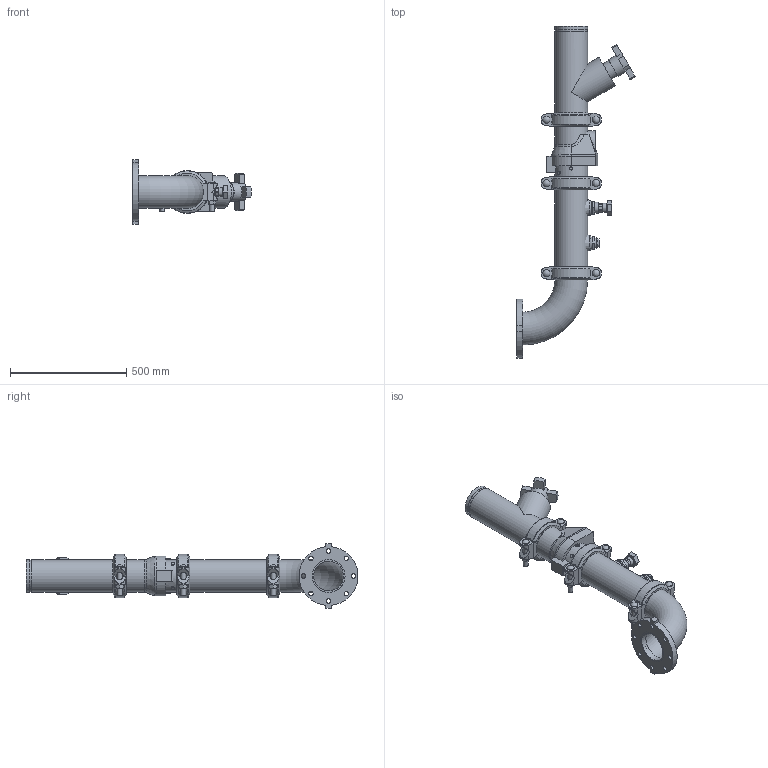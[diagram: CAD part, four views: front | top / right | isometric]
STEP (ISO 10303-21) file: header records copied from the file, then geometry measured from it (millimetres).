
FILE_DESCRIPTION(/* description */ ('VIC DVI PUMP DROP HORZ S/383 (OGSxFLG) (S/924-1.25)','CAx-IF Rec.Pracs.---Representation and Presentation of Product Manufacturing Information (PMI)---4.0---2014-10-13'),/* implementation_level */ '2;1');
FILE_NAME(/* name */ 'C:\Users\Vjadhav\AppData\Roaming\Autodesk\ApplicationPlugins\Victaulic.Temp\A892\Victaulic_IPS_Horizontal DVI_CL 150_Series 383 (OGSxFLG)_924 (1.25)_05.0x05.0 (125x125).stp',/* time_stamp */ '2022-02-28T15:43:49+05:00',/* author */ ('kkamble'),/* organization */ ('Victaulic'),/* preprocessor_version */ 'ST-DEVELOPER v17.2',/* originating_system */ 'Autodesk Inventor 2019',/* authorisation */ '');
FILE_SCHEMA (('AP242_MANAGED_MODEL_BASED_3D_ENGINEERING_MIM_LF { 1 0 10303 442 1 1 4 }'));
Length unit declared in the file: inch
Products named in the file (9): 383-924 (1.25)-05.0x05.0; 741-05.0; Pipe-05.0x05.0; 789-05.0; 177N-05.0; 779-05.0; 924-04.0x01.25; 923-04.0x0.75; 100-05.0
Assembly tree (10 placements, depth 2):
  383-924 (1.25)-05.0x05.0
    177N-05.0  x3
    741-05.0
    Pipe-05.0x05.0
    789-05.0
    779-05.0
    924-04.0x01.25
    923-04.0x0.75
    100-05.0
Bounding box: 511.3 x 1429.86 x 279.4 mm (x, y, z)
Volume: 11608120.9 mm3; surface area: 1967707.3 mm2
Topology: 10 solids, 11 shells, 546 faces, 1457 edges, 973 vertices
Faces by surface type: plane 321, cylinder 180, torus 20, cone 17, sphere 6, bspline 2
Full cylindrical faces by diameter (mm): 13.716 x4, 19.05 x8, 21.209 x6, 21.336 x1, 26.67 x2, 30.48 x6, 38.608 x1, 42.164 x1, 45.974 x4, 48.514 x1, 55.626 x2, 75.26 x1, 82.55 x1, 128.194 x5, 128.6 x3, 137.033 x8, 141.3 x20
Entity records: 12442 total; most frequent: CARTESIAN_POINT 2512, DIRECTION 2039, ORIENTED_EDGE 1862, EDGE_CURVE 931, AXIS2_PLACEMENT_3D 774, VERTEX_POINT 629, LINE 491, VECTOR 491
